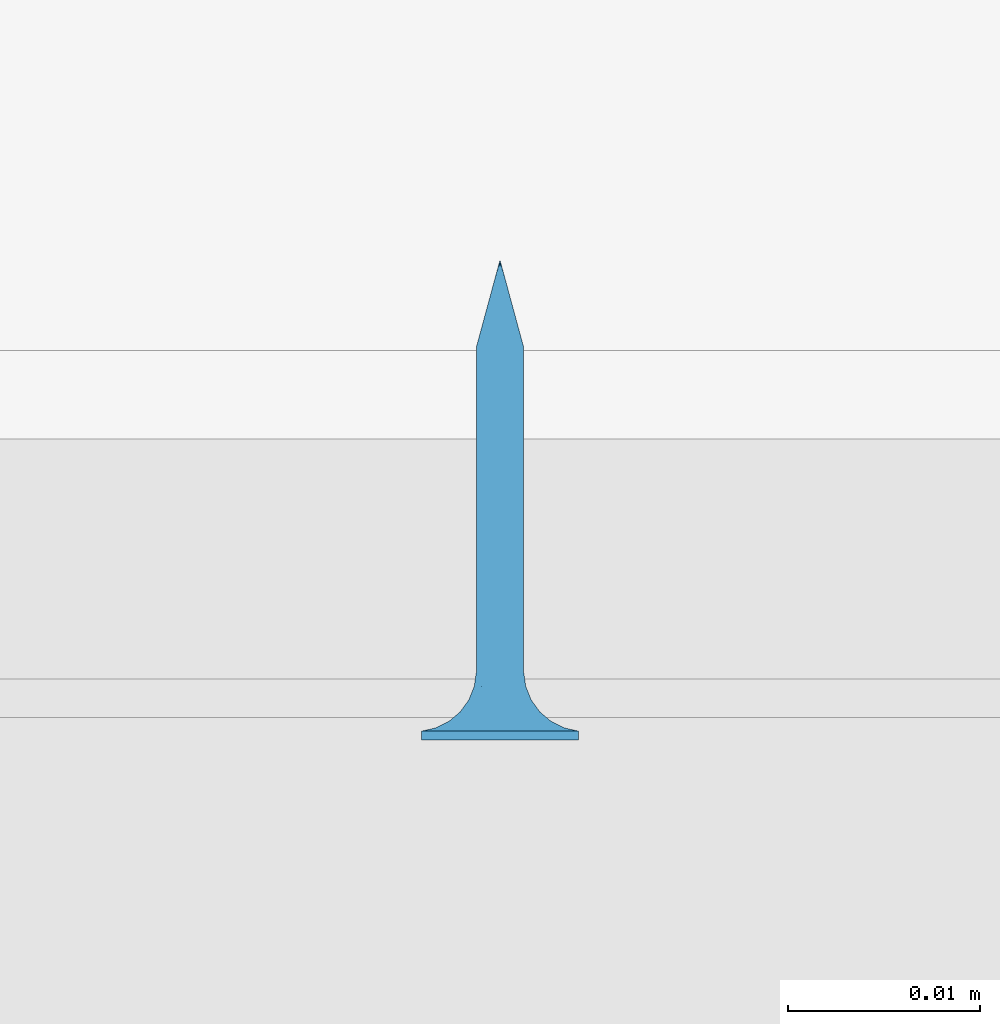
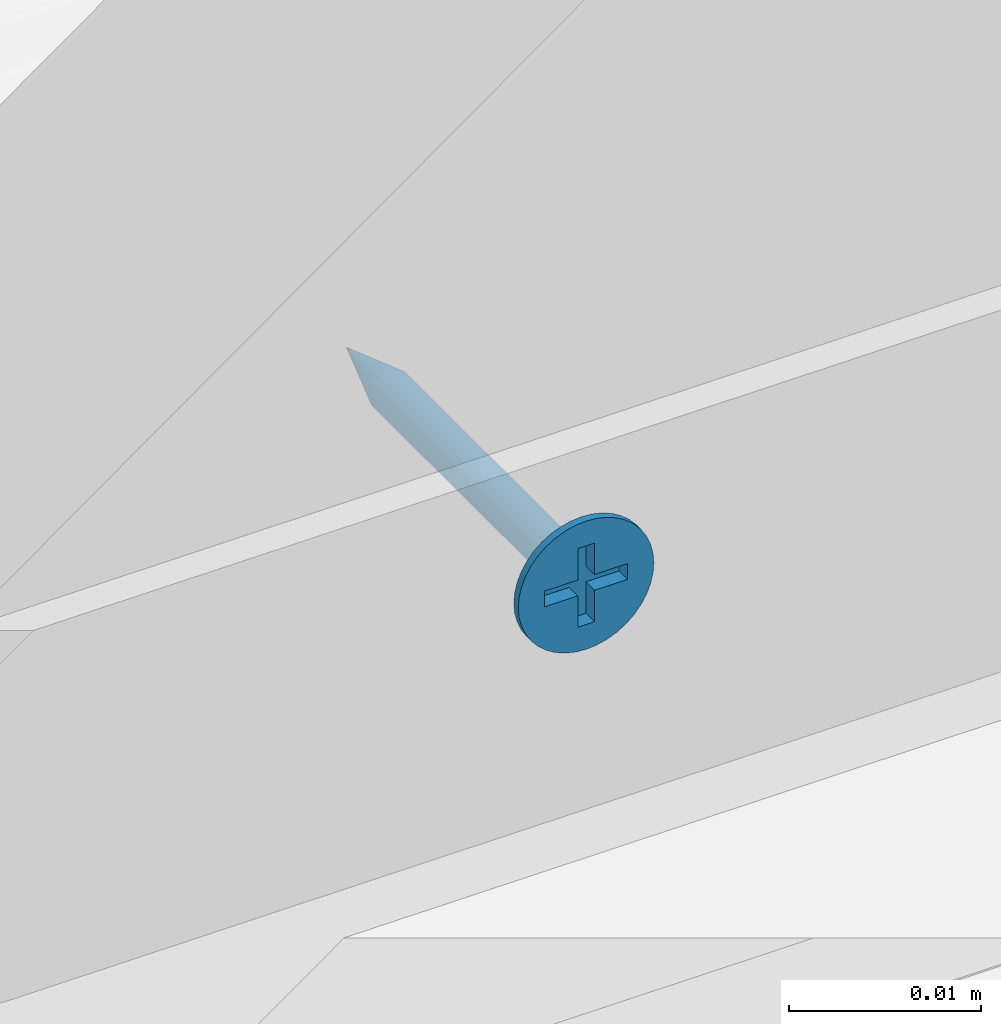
# One storey, part 29 of 79: 1 slab.
"""IFC2X3 building model written with IfcOpenShell, lengths in millimetres."""

from ifc_helpers import new_model, entity, si_unit, converted_unit, direction, frame, origin, origin_with_axes, place, context, project, spatial, faceted_brep, element, save


model = new_model("IFC2X3")

# Units and contexts
model_context = context("Model", 3, precision=1e-05, world=origin(), true_north=direction((0.0, 1.0, 0.0)))
ifc_project = project(units=[si_unit("LENGTHUNIT", "METRE", prefix="MILLI"), si_unit("AREAUNIT", "SQUARE_METRE"), si_unit("VOLUMEUNIT", "CUBIC_METRE"), converted_unit("PLANEANGLEUNIT", "DEGREE", entity("IfcPlaneAngleMeasure", 0.01745), si_unit("PLANEANGLEUNIT", "RADIAN"), dimensions=[0, 0, 0, 0, 0, 0, 0]), si_unit("SOLIDANGLEUNIT", "STERADIAN"), si_unit("MASSUNIT", "GRAM"), si_unit("TIMEUNIT", "SECOND"), si_unit("THERMODYNAMICTEMPERATUREUNIT", "DEGREE_CELSIUS"), si_unit("LUMINOUSINTENSITYUNIT", "LUMEN")], contexts=[model_context])

# Site, building, storey
site_placement = place(None, origin_with_axes())
site = spatial("IfcSite", under=ifc_project, at=site_placement, Name="Default Site", CompositionType="ELEMENT")
building_placement = place(site_placement, origin_with_axes())
building = spatial("IfcBuilding", under=site, at=building_placement, Name="Default Building", CompositionType="ELEMENT")
storey_placement = place(building_placement, origin_with_axes())
storey = spatial("IfcBuildingStorey", under=building, at=storey_placement, Name="Default Building Storey", CompositionType="ELEMENT", Elevation=0.0)

# Slab
slab_placement = place(storey_placement, frame((2430.499834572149, 5017.24186699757, 440.6779499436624), z_axis=(0.0, 0.0, 1.0), x_axis=(1.0, 0.0, 0.0)))
element("IfcSlab", 1, at=slab_placement, inside=storey, Name="Łącznik mechaniczny", context=model_context, shape_type="Brep", body=[
    faceted_brep([(-136.5890362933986, -3387.475459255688, 554.9298199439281), (-136.4636235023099, -3387.475459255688, 555.0766594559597), (-136.4636235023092, -3370.55807436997, 555.0766594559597), (-136.5890362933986, -3370.55807436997, 554.9298199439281), (-136.9005263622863, -3387.475459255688, 554.7035091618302), (-136.9005263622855, -3370.55807436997, 554.7035091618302), (-137.0789337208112, -3370.55807436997, 554.6296104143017), (-137.078933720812, -3387.475459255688, 554.6296104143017), (-137.2667048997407, -3387.475459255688, 554.5845305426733), (-137.2667048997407, -3370.55807436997, 554.5845305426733), (-137.4592163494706, -3370.55807436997, 554.5693795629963), (-137.4592163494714, -3387.475459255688, 554.5693795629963), (-136.4636235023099, -3387.475459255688, 556.5233405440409), (-136.5890362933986, -3387.475459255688, 556.6701800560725), (-136.5890362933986, -3370.55807436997, 556.6701800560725), (-136.4636235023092, -3370.55807436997, 556.5233405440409), (-138.4548091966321, -3370.55807436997, 556.5233405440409), (-138.3293964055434, -3370.55807436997, 556.6701800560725), (-138.3293964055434, -3387.475459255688, 556.6701800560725), (-138.4548091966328, -3387.475459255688, 556.5233405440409), (-136.7358758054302, -3370.55807436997, 554.8044071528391), (-136.7358758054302, -3387.475459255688, 554.8044071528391), (-138.1825568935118, -3387.475459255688, 556.7955928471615), (-138.1825568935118, -3370.55807436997, 556.7955928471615), (-138.0179063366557, -3370.55807436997, 556.8964908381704), (-138.0179063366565, -3387.475459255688, 556.8964908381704), (-136.3627255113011, -3387.475459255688, 556.3586899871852), (-136.3627255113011, -3370.55807436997, 556.3586899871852), (-136.7358758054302, -3387.475459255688, 556.7955928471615), (-136.7358758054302, -3370.55807436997, 556.7955928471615), (-137.6517277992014, -3387.475459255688, 554.5845305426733), (-137.6517277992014, -3370.55807436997, 554.5845305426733), (-137.83949897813, -3370.55807436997, 554.6296104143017), (-137.8394989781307, -3387.475459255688, 554.6296104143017), (-136.3627255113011, -3387.475459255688, 555.241310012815), (-136.3627255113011, -3370.55807436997, 555.241310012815), (-138.0179063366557, -3370.55807436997, 554.7035091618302), (-138.0179063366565, -3387.475459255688, 554.7035091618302), (-138.6746858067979, -3370.55807436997, 555.6074885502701), (-138.6898367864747, -3370.55807436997, 555.8000000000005), (-138.6898367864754, -3387.475459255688, 555.8000000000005), (-138.6746858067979, -3387.475459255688, 555.6074885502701), (-136.2285959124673, -3387.475459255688, 555.8000000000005), (-136.2437468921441, -3387.475459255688, 555.9925114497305), (-136.2437468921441, -3370.55807436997, 555.9925114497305), (-136.2285959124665, -3370.55807436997, 555.8000000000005), (-138.3293964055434, -3370.55807436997, 554.9298199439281), (-138.4548091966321, -3370.55807436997, 555.0766594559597), (-138.4548091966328, -3387.475459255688, 555.0766594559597), (-138.3293964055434, -3387.475459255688, 554.9298199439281), (-137.83949897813, -3370.55807436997, 556.9703895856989), (-137.8394989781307, -3387.475459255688, 556.9703895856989), (-138.1825568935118, -3370.55807436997, 554.8044071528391), (-138.1825568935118, -3387.475459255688, 554.8044071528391), (-138.5557071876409, -3370.55807436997, 555.241310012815), (-138.6296059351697, -3370.55807436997, 555.4197173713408), (-138.6296059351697, -3387.475459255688, 555.4197173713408), (-138.5557071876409, -3387.475459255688, 555.241310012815), (-136.2888267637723, -3387.475459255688, 555.4197173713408), (-136.2437468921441, -3387.475459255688, 555.6074885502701), (-136.2437468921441, -3370.55807436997, 555.6074885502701), (-136.2888267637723, -3370.55807436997, 555.4197173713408), (-136.2888267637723, -3387.475459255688, 556.1802826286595), (-136.2888267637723, -3370.55807436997, 556.1802826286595), (-137.4592163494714, -3387.475459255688, 557.0306204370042), (-137.4592163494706, -3370.55807436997, 557.0306204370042), (-137.2667048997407, -3370.55807436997, 557.0154694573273), (-137.2667048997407, -3387.475459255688, 557.0154694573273), (-137.0789337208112, -3370.55807436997, 556.9703895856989), (-137.078933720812, -3387.475459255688, 556.9703895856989), (-137.6517277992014, -3387.475459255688, 557.0154694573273), (-137.6517277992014, -3370.55807436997, 557.0154694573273), (-136.9005263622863, -3387.475459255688, 556.8964908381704), (-136.9005263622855, -3370.55807436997, 556.8964908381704), (-138.6296059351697, -3370.55807436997, 556.1802826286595), (-138.5557071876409, -3370.55807436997, 556.3586899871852), (-138.5557071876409, -3387.475459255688, 556.3586899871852), (-138.6296059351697, -3387.475459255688, 556.1802826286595), (-138.6746858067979, -3370.55807436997, 555.9925114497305), (-138.6746858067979, -3387.475459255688, 555.9925114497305), (-141.5377463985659, -3390.556721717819, 555.8000000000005), (-141.5377463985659, -3391.020944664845, 555.8000000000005), (-141.4875329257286, -3391.020944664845, 555.1619773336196), (-141.4875329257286, -3390.556721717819, 555.1619773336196), (-141.338128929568, -3391.020944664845, 554.539664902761), (-141.338128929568, -3390.556721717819, 554.539664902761), (-141.0932132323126, -3391.020944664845, 553.948386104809), (-141.0932132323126, -3390.556721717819, 553.948386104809), (-140.7588164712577, -3391.020944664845, 553.4027001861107), (-140.7588164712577, -3390.556721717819, 553.4027001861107), (-140.3431726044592, -3391.020944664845, 552.9160437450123), (-140.4541727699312, -3390.556721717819, 553.0314907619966), (-140.1080097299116, -3390.556721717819, 552.6986614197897), (-139.8565161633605, -3391.020944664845, 552.5003998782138), (-139.7251262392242, -3390.556721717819, 552.4088262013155), (-139.3108302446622, -3391.020944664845, 552.1660031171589), (-139.3108302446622, -3390.556721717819, 552.1660031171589), (-138.8708651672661, -3390.556721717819, 551.9735584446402), (-138.7195514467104, -3391.020944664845, 551.9210874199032), (-138.4113302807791, -3390.556721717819, 551.8341600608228), (-137.9385961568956, -3390.556721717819, 551.7497404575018), (-138.0972390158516, -3391.020944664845, 551.7716834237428), (-137.4592163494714, -3391.020944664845, 551.7214699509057), (-137.4592163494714, -3390.556721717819, 551.7214699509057), (-136.8211936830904, -3391.020944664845, 551.7716834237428), (-136.8211936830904, -3390.556721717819, 551.7716834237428), (-136.1988812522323, -3391.020944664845, 551.9210874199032), (-136.1988812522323, -3390.556721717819, 551.9210874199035), (-135.6076024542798, -3391.020944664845, 552.1660031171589), (-135.6076024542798, -3390.556721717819, 552.1660031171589), (-135.0619165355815, -3391.020944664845, 552.5003998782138), (-135.0619165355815, -3390.556721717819, 552.5003998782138), (-134.5752600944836, -3391.020944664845, 552.9160437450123), (-134.5752600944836, -3390.556721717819, 552.9160437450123), (-134.1596162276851, -3391.020944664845, 553.4027001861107), (-134.1596162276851, -3390.556721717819, 553.4027001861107), (-133.8252194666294, -3391.020944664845, 553.948386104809), (-133.8252194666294, -3390.556721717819, 553.948386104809), (-133.580303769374, -3391.020944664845, 554.539664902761), (-133.580303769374, -3390.556721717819, 554.539664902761), (-133.4308997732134, -3391.020944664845, 556.438022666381), (-133.4308997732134, -3390.556721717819, 556.438022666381), (-133.3806863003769, -3390.556721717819, 555.8000000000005), (-133.3806863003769, -3391.020944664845, 555.8000000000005), (-133.4308997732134, -3390.556721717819, 555.1619773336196), (-133.4308997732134, -3391.020944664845, 555.1619773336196), (-133.580303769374, -3391.020944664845, 557.0603350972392), (-133.580303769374, -3390.556721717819, 557.0603350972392), (-133.8252194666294, -3391.020944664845, 557.6516138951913), (-133.8252194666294, -3390.556721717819, 557.6516138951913), (-134.1596162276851, -3391.020944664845, 558.1972998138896), (-134.1596162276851, -3390.556721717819, 558.1972998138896), (-134.5752600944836, -3391.020944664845, 558.683956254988), (-134.5752600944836, -3390.556721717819, 558.683956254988), (-135.0619165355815, -3391.020944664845, 559.0996001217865), (-135.0619165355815, -3390.556721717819, 559.0996001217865), (-135.6076024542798, -3391.020944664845, 559.4339968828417), (-135.6076024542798, -3390.556721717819, 559.4339968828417), (-136.1988812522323, -3391.020944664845, 559.6789125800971), (-136.1988812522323, -3390.556721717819, 559.6789125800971), (-136.8211936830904, -3391.020944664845, 559.8283165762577), (-136.8211936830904, -3390.556721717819, 559.8283165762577), (-137.4592163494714, -3391.020944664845, 559.8785300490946), (-137.4592163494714, -3390.556721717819, 559.8785300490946), (-138.0972390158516, -3391.020944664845, 559.8283165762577), (-138.0972390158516, -3390.556721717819, 559.8283165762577), (-138.7195514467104, -3391.020944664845, 559.6789125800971), (-138.7195514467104, -3390.556721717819, 559.6789125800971), (-139.3108302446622, -3391.020944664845, 559.4339968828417), (-139.3108302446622, -3390.556721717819, 559.4339968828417), (-139.8565161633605, -3391.020944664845, 559.0996001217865), (-139.8565161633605, -3390.556721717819, 559.0996001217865), (-140.3431726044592, -3391.020944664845, 558.683956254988), (-140.3431726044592, -3390.556721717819, 558.683956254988), (-140.7588164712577, -3391.020944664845, 558.1972998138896), (-140.7588164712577, -3390.556721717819, 558.1972998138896), (-141.0932132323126, -3391.020944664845, 557.6516138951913), (-141.0932132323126, -3390.556721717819, 557.6516138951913), (-141.338128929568, -3391.020944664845, 557.0603350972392), (-141.338128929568, -3390.556721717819, 557.0603350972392), (-141.4875329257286, -3391.020944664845, 556.438022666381), (-141.4875329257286, -3390.556721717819, 556.438022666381), (-137.8060615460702, -3388.229732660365, 554.5055560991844), (-137.4592163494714, -3388.229732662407, 554.4598930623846), (-138.1292698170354, -3388.229732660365, 554.6394333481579), (-138.4068150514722, -3388.229732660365, 554.8524012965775), (-138.6197830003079, -3388.229732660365, 555.1299465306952), (-138.7536602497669, -3388.229732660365, 555.4531548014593), (-138.7993232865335, -3388.229732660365, 555.7999999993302), (-138.7536602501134, -3388.229732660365, 556.1468451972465), (-138.6197830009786, -3388.229732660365, 556.4700534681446), (-138.4068150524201, -3388.229732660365, 556.7475987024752), (-138.1292698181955, -3388.229732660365, 556.9605666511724), (-137.8060615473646, -3388.229732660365, 557.0944439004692), (-137.4592163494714, -3388.229732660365, 557.1401069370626), (-137.1123711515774, -3388.229732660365, 557.0944439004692), (-136.7891628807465, -3388.229732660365, 556.9605666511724), (-136.5116176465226, -3388.229732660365, 556.7475987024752), (-136.2986496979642, -3388.229732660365, 556.4700534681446), (-136.1647724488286, -3388.229732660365, 556.1468451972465), (-136.1191094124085, -3388.229732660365, 555.7999999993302), (-136.1647724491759, -3388.229732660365, 555.4531548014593), (-136.2986496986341, -3388.229732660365, 555.1299465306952), (-136.5116176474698, -3388.229732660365, 554.8524012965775), (-136.7891628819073, -3388.229732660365, 554.6394333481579), (-137.1123711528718, -3388.229732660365, 554.5055560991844), (-137.4592163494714, -3388.936142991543, 554.1737111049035), (-137.8801308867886, -3388.936142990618, 554.2291255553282), (-138.2723607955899, -3388.936142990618, 554.39159250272), (-138.6091762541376, -3388.936142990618, 554.6500400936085), (-138.8676238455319, -3388.936142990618, 554.9868555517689), (-139.0300907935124, -3388.936142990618, 555.3790854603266), (-139.0855052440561, -3388.936142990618, 555.7999999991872), (-139.0300907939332, -3388.936142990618, 556.2209145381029), (-138.8676238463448, -3388.936142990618, 556.6131444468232), (-138.6091762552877, -3388.936142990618, 556.949959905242), (-138.2723607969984, -3388.936142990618, 557.2084074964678), (-137.8801308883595, -3388.936142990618, 557.3708744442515), (-137.4592163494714, -3388.936142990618, 557.4262888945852), (-137.0383018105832, -3388.936142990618, 557.3708744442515), (-136.6460719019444, -3388.936142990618, 557.2084074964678), (-136.3092564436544, -3388.936142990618, 556.949959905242), (-136.0508088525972, -3388.936142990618, 556.6131444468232), (-135.8883419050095, -3388.936142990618, 556.2209145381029), (-135.8329274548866, -3388.936142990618, 555.7999999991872), (-135.8883419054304, -3388.936142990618, 555.3790854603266), (-136.0508088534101, -3388.936142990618, 554.9868555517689), (-136.3092564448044, -3388.936142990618, 554.6500400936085), (-136.6460719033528, -3388.936142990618, 554.39159250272), (-137.0383018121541, -3388.936142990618, 554.2291255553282), (-137.4592163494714, -3389.553938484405, 553.727343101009), (-137.9956594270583, -3389.553938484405, 553.7979671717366), (-138.4955447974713, -3389.553938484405, 554.0050264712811), (-138.9248060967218, -3389.553938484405, 554.3344102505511), (-139.2541898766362, -3389.553938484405, 554.7636715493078), (-139.46124917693, -3389.553938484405, 555.2635569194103), (-139.5318732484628, -3389.553938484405, 555.7999999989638), (-139.4612491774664, -3389.553938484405, 556.3364430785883), (-139.2541898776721, -3389.553938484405, 556.8363284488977), (-138.9248060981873, -3389.553938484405, 557.2655897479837), (-138.495544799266, -3389.553938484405, 557.5949735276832), (-137.9956594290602, -3389.553938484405, 557.8020328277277), (-137.4592163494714, -3389.553938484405, 557.8726568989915), (-136.9227732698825, -3389.553938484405, 557.8020328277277), (-136.422887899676, -3389.553938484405, 557.5949735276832), (-135.9936266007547, -3389.553938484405, 557.2655897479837), (-135.6642428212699, -3389.553938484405, 556.8363284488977), (-135.4571835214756, -3389.553938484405, 556.3364430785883), (-135.3865594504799, -3389.553938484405, 555.7999999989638), (-135.457183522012, -3389.553938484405, 555.2635569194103), (-135.6642428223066, -3389.553938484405, 554.7636715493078), (-135.9936266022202, -3389.553938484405, 554.3344102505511), (-136.4228879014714, -3389.553938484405, 554.0050264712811), (-136.9227732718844, -3389.553938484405, 553.7979671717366), (-137.4592163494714, -3390.04747944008, 553.1465393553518), (-138.1459824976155, -3390.047479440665, 553.2369538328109), (-138.7859466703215, -3390.047479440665, 553.5020356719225), (-139.3354963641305, -3390.047479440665, 553.9237199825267), (-139.757180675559, -3390.047479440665, 554.4732696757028), (-140.0222625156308, -3390.047479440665, 555.1132338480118), (-140.1126769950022, -3390.047479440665, 555.7999999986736), (-140.0222625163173, -3390.047479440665, 556.4867661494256), (-139.7571806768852, -3390.047479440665, 557.1267303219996), (-139.3354963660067, -3390.047479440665, 557.6762800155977), (-138.7859466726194, -3390.047479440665, 558.0979643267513), (-138.1459825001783, -3390.047479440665, 558.3630461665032), (-137.4592163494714, -3390.047479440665, 558.4534606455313), (-136.7724501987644, -3390.047479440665, 558.3630461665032), (-136.1324860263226, -3390.047479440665, 558.0979643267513), (-135.5829363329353, -3390.047479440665, 557.6762800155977), (-135.1612520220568, -3390.047479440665, 557.1267303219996), (-134.8961701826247, -3390.047479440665, 556.4867661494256), (-134.8057557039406, -3390.047479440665, 555.7999999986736), (-134.8961701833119, -3390.047479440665, 555.1132338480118), (-135.1612520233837, -3390.047479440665, 554.4732696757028), (-135.5829363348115, -3390.047479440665, 553.9237199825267), (-136.1324860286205, -3390.047479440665, 553.5020356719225), (-136.7724502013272, -3390.047479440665, 553.2369538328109), (-137.4592163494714, -3390.388294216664, 552.4648055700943), (-138.3224281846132, -3390.388294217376, 552.5784495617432), (-139.1268135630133, -3390.388294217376, 552.9116368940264), (-139.8175549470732, -3390.388294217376, 553.4416613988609), (-140.3475794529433, -3390.388294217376, 554.1324027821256), (-140.6807667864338, -3390.388294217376, 554.9367881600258), (-140.7944107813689, -3390.388294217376, 555.7999999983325), (-140.6807667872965, -3390.388294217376, 556.6632118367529), (-140.3475794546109, -3390.388294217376, 557.4675972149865), (-139.8175549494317, -3390.388294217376, 558.1583385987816), (-139.1268135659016, -3390.388294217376, 558.6883631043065), (-138.3224281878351, -3390.388294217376, 559.0215504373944), (-137.4592163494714, -3390.388294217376, 559.1351944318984), (-136.5960045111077, -3390.388294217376, 559.0215504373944), (-135.7916191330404, -3390.388294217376, 558.6883631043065), (-135.1008777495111, -3390.388294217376, 558.1583385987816), (-134.5708532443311, -3390.388294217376, 557.4675972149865), (-134.2376659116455, -3390.388294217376, 556.6632118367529), (-134.1240219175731, -3390.388294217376, 555.7999999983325), (-134.2376659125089, -3390.388294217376, 554.9367881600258), (-134.5708532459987, -3390.388294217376, 554.1324027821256), (-135.1008777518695, -3390.388294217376, 553.4416613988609), (-135.7916191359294, -3390.388294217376, 552.9116368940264), (-136.5960045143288, -3390.388294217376, 552.5784495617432), (-137.4592163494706, -3366.021033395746, 555.8000000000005), (-139.9592163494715, -3391.020944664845, 556.3000000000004), (-137.9592163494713, -3391.020944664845, 556.3000000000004), (-139.9592163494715, -3391.020944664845, 555.3000000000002), (-137.9592163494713, -3391.020944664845, 555.3000000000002), (-137.9592163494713, -3391.020944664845, 553.3000000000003), (-136.9592163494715, -3391.020944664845, 553.3000000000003), (-136.9592163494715, -3391.020944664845, 555.3000000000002), (-134.9592163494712, -3391.020944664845, 555.3000000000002), (-134.9592163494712, -3391.020944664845, 556.3000000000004), (-136.9592163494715, -3391.020944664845, 556.3000000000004), (-136.9592163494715, -3391.020944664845, 558.3000000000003), (-137.9592163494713, -3391.020944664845, 558.3000000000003), (-136.9592163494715, -3390.128974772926, 556.3000000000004), (-134.9592163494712, -3390.128974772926, 556.3000000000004), (-134.9592163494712, -3390.128974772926, 555.3000000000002), (-136.9592163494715, -3390.128974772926, 555.3000000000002), (-136.9592163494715, -3390.128974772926, 553.3000000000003), (-137.9592163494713, -3390.128974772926, 553.3000000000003), (-137.9592163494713, -3390.128974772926, 555.3000000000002), (-139.9592163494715, -3390.128974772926, 555.3000000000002), (-139.9592163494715, -3390.128974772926, 556.3000000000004), (-137.9592163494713, -3390.128974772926, 556.3000000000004), (-137.9592163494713, -3390.128974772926, 558.3000000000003), (-136.9592163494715, -3390.128974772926, 558.3000000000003)], [[[0, 1, 2, 3]], [[4, 5, 6, 7]], [[8, 9, 10, 11]], [[12, 13, 14, 15]], [[16, 17, 18, 19]], [[0, 3, 20, 21]], [[22, 23, 24, 25]], [[26, 12, 15, 27]], [[28, 29, 14, 13]], [[30, 31, 32, 33]], [[1, 34, 35, 2]], [[18, 17, 23, 22]], [[7, 6, 9, 8]], [[33, 32, 36, 37]], [[38, 39, 40, 41]], [[42, 43, 44, 45]], [[46, 47, 48, 49]], [[25, 24, 50, 51]], [[37, 36, 52, 53]], [[54, 55, 56, 57]], [[53, 52, 46, 49]], [[47, 54, 57, 48]], [[58, 59, 60, 61]], [[59, 42, 45, 60]], [[43, 62, 63, 44]], [[64, 65, 66, 67]], [[67, 66, 68, 69]], [[55, 38, 41, 56]], [[70, 71, 65, 64]], [[72, 73, 29, 28]], [[74, 75, 76, 77]], [[69, 68, 73, 72]], [[39, 78, 79, 40]], [[75, 16, 19, 76]], [[62, 26, 27, 63]], [[11, 10, 31, 30]], [[21, 20, 5, 4]], [[34, 58, 61, 35]], [[51, 50, 71, 70]], [[78, 74, 77, 79]], [[80, 81, 82, 83]], [[84, 85, 83, 82]], [[86, 87, 85, 84]], [[87, 86, 88, 89]], [[88, 90, 89]], [[90, 91, 89]], [[92, 91, 93]], [[91, 90, 93]], [[93, 94, 92]], [[93, 95, 94]], [[95, 96, 94]], [[97, 96, 98]], [[96, 95, 98]], [[98, 99, 97]], [[100, 99, 101]], [[99, 98, 101]], [[101, 102, 100]], [[102, 103, 100]], [[103, 102, 104, 105]], [[106, 107, 105, 104]], [[108, 109, 107, 106]], [[109, 108, 110, 111]], [[112, 113, 111, 110]], [[113, 112, 114, 115]], [[116, 117, 115, 114]], [[118, 119, 117, 116]], [[120, 121, 122, 123]], [[123, 122, 124, 125]], [[119, 118, 125, 124]], [[126, 127, 121, 120]], [[128, 129, 127, 126]], [[129, 128, 130, 131]], [[132, 133, 131, 130]], [[133, 132, 134, 135]], [[136, 137, 135, 134]], [[138, 139, 137, 136]], [[139, 138, 140, 141]], [[142, 143, 141, 140]], [[143, 142, 144, 145]], [[146, 147, 145, 144]], [[148, 149, 147, 146]], [[149, 148, 150, 151]], [[152, 153, 151, 150]], [[153, 152, 154, 155]], [[156, 157, 155, 154]], [[158, 159, 157, 156]], [[159, 158, 160, 161]], [[81, 80, 161, 160]], [[162, 11, 30]], [[162, 163, 11]], [[30, 33, 162]], [[162, 33, 164]], [[37, 164, 33]], [[164, 37, 53]], [[53, 165, 164]], [[53, 49, 165]], [[166, 49, 48]], [[166, 165, 49]], [[48, 57, 166]], [[166, 57, 167]], [[56, 167, 57]], [[167, 56, 41]], [[41, 168, 167]], [[41, 40, 168]], [[169, 40, 79]], [[169, 168, 40]], [[79, 77, 169]], [[169, 77, 170]], [[76, 170, 77]], [[170, 76, 19]], [[19, 171, 170]], [[19, 18, 171]], [[172, 18, 22]], [[172, 171, 18]], [[22, 25, 172]], [[172, 25, 173]], [[51, 173, 25]], [[173, 51, 70]], [[70, 174, 173]], [[70, 64, 174]], [[175, 64, 67]], [[175, 174, 64]], [[67, 69, 175]], [[175, 69, 176]], [[72, 176, 69]], [[176, 72, 28]], [[28, 177, 176]], [[28, 13, 177]], [[178, 13, 12]], [[178, 177, 13]], [[12, 26, 178]], [[178, 26, 179]], [[62, 179, 26]], [[179, 62, 43]], [[43, 180, 179]], [[43, 42, 180]], [[181, 42, 59]], [[181, 180, 42]], [[59, 58, 181]], [[181, 58, 182]], [[34, 182, 58]], [[182, 34, 1]], [[1, 183, 182]], [[1, 0, 183]], [[184, 0, 21]], [[184, 183, 0]], [[21, 4, 184]], [[184, 4, 185]], [[7, 185, 4]], [[185, 7, 8]], [[8, 163, 185]], [[8, 11, 163]], [[186, 163, 187]], [[162, 187, 163]], [[164, 188, 187, 162]], [[165, 189, 188, 164]], [[166, 190, 189, 165]], [[167, 191, 190, 166]], [[168, 192, 191, 167]], [[169, 193, 192, 168]], [[170, 194, 193, 169]], [[171, 195, 194, 170]], [[172, 196, 195, 171]], [[173, 197, 196, 172]], [[174, 198, 197, 173]], [[175, 199, 198, 174]], [[176, 200, 199, 175]], [[177, 201, 200, 176]], [[178, 202, 201, 177]], [[179, 203, 202, 178]], [[180, 204, 203, 179]], [[181, 205, 204, 180]], [[182, 206, 205, 181]], [[183, 207, 206, 182]], [[184, 208, 207, 183]], [[185, 209, 208, 184]], [[185, 163, 209]], [[186, 209, 163]], [[210, 186, 211]], [[187, 211, 186]], [[188, 212, 211, 187]], [[189, 213, 212, 188]], [[190, 214, 213, 189]], [[191, 215, 214, 190]], [[192, 216, 215, 191]], [[193, 217, 216, 192]], [[194, 218, 217, 193]], [[195, 219, 218, 194]], [[196, 220, 219, 195]], [[197, 221, 220, 196]], [[198, 222, 221, 197]], [[199, 223, 222, 198]], [[200, 224, 223, 199]], [[201, 225, 224, 200]], [[202, 226, 225, 201]], [[203, 227, 226, 202]], [[204, 228, 227, 203]], [[205, 229, 228, 204]], [[206, 230, 229, 205]], [[207, 231, 230, 206]], [[208, 232, 231, 207]], [[209, 233, 232, 208]], [[209, 186, 233]], [[210, 233, 186]], [[234, 210, 235]], [[211, 235, 210]], [[212, 236, 235, 211]], [[213, 237, 236, 212]], [[214, 238, 237, 213]], [[215, 239, 238, 214]], [[216, 240, 239, 215]], [[217, 241, 240, 216]], [[218, 242, 241, 217]], [[219, 243, 242, 218]], [[220, 244, 243, 219]], [[221, 245, 244, 220]], [[222, 246, 245, 221]], [[223, 247, 246, 222]], [[224, 248, 247, 223]], [[225, 249, 248, 224]], [[226, 250, 249, 225]], [[227, 251, 250, 226]], [[228, 252, 251, 227]], [[229, 253, 252, 228]], [[230, 254, 253, 229]], [[231, 255, 254, 230]], [[232, 256, 255, 231]], [[233, 257, 256, 232]], [[233, 210, 257]], [[234, 257, 210]], [[258, 99, 100]], [[258, 259, 99]], [[100, 103, 258]], [[258, 234, 259]], [[235, 259, 234]], [[259, 96, 97]], [[259, 260, 96]], [[97, 99, 259]], [[236, 260, 259, 235]], [[261, 91, 92]], [[260, 92, 94]], [[260, 261, 92]], [[94, 96, 260]], [[237, 261, 260, 236]], [[262, 87, 89]], [[89, 261, 262]], [[89, 91, 261]], [[238, 262, 261, 237]], [[85, 87, 263]], [[262, 263, 87]], [[239, 263, 262, 238]], [[263, 80, 83]], [[263, 264, 80]], [[83, 85, 263]], [[240, 264, 263, 239]], [[265, 159, 161]], [[161, 264, 265]], [[161, 80, 264]], [[241, 265, 264, 240]], [[265, 266, 157, 159]], [[242, 266, 265, 241]], [[266, 153, 155]], [[266, 267, 153]], [[155, 157, 266]], [[243, 267, 266, 242]], [[268, 149, 151]], [[151, 267, 268]], [[151, 153, 267]], [[244, 268, 267, 243]], [[268, 269, 147, 149]], [[245, 269, 268, 244]], [[269, 143, 145]], [[269, 270, 143]], [[145, 147, 269]], [[246, 270, 269, 245]], [[271, 139, 141]], [[141, 270, 271]], [[141, 143, 270]], [[247, 271, 270, 246]], [[271, 272, 137, 139]], [[248, 272, 271, 247]], [[272, 133, 135]], [[272, 273, 133]], [[135, 137, 272]], [[249, 273, 272, 248]], [[274, 129, 131]], [[131, 273, 274]], [[131, 133, 273]], [[250, 274, 273, 249]], [[274, 275, 127, 129]], [[251, 275, 274, 250]], [[275, 122, 121]], [[275, 276, 122]], [[121, 127, 275]], [[252, 276, 275, 251]], [[277, 119, 124]], [[124, 276, 277]], [[124, 122, 276]], [[253, 277, 276, 252]], [[117, 119, 278]], [[277, 278, 119]], [[254, 278, 277, 253]], [[278, 113, 115]], [[278, 279, 113]], [[115, 117, 278]], [[255, 279, 278, 254]], [[280, 109, 111]], [[111, 279, 280]], [[111, 113, 279]], [[256, 280, 279, 255]], [[107, 109, 281]], [[280, 281, 109]], [[257, 281, 280, 256]], [[257, 234, 281]], [[258, 281, 234]], [[281, 103, 105]], [[281, 258, 103]], [[105, 107, 281]], [[38, 55, 282]], [[282, 39, 38]], [[55, 54, 282]], [[47, 46, 282]], [[282, 54, 47]], [[52, 36, 282]], [[282, 46, 52]], [[36, 32, 282]], [[31, 10, 282]], [[282, 32, 31]], [[9, 6, 282]], [[282, 10, 9]], [[6, 5, 282]], [[20, 3, 282]], [[282, 5, 20]], [[2, 35, 282]], [[282, 3, 2]], [[35, 61, 282]], [[60, 45, 282]], [[282, 61, 60]], [[44, 63, 282]], [[282, 45, 44]], [[63, 27, 282]], [[15, 14, 282]], [[282, 27, 15]], [[29, 73, 282]], [[282, 14, 29]], [[73, 68, 282]], [[66, 65, 282]], [[282, 68, 66]], [[71, 50, 282]], [[282, 65, 71]], [[50, 24, 282]], [[23, 17, 282]], [[282, 24, 23]], [[16, 75, 282]], [[282, 17, 16]], [[75, 74, 282]], [[78, 39, 282]], [[282, 74, 78]], [[283, 156, 154, 284]], [[283, 285, 286, 287, 288, 289, 290, 291, 292, 293, 294, 284, 154, 152, 150, 148, 146, 144, 142, 140, 138, 136, 134, 132, 130, 128, 126, 120, 123, 125, 118, 116, 114, 112, 110, 108, 106, 104, 102, 101, 98, 95, 93, 90, 88, 86, 84, 82, 81, 160, 158, 156]], [[295, 296, 297, 298, 299, 300, 301, 302, 303, 304, 305, 306]], [[297, 290, 289, 298]], [[296, 291, 290, 297]], [[295, 292, 291, 296]], [[306, 293, 292, 295]], [[305, 294, 293, 306]], [[304, 284, 294, 305]], [[303, 283, 284, 304]], [[302, 285, 283, 303]], [[301, 286, 285, 302]], [[300, 287, 286, 301]], [[299, 288, 287, 300]], [[298, 289, 288, 299]]]),
])

save(model, "model.ifc")
